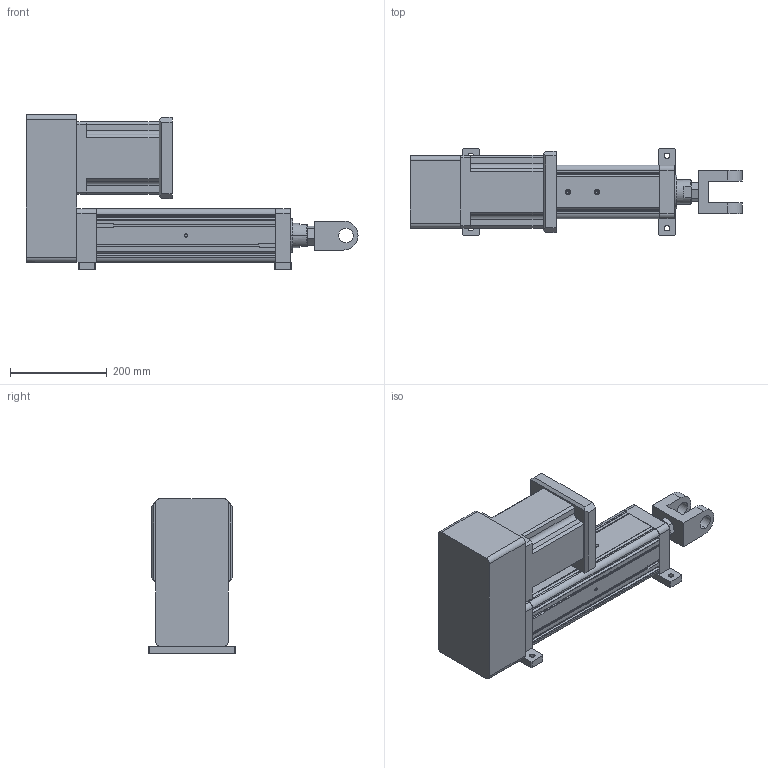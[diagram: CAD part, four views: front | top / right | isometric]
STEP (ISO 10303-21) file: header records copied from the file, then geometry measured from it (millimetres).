
FILE_DESCRIPTION (( 'STEP AP203' ), '1' );
FILE_NAME ('YRJ110-L200-H2K4.STEP', '2020-01-04T06:03:16', ( 'User' ), ( 'China' ), 'SwSTEP 2.0', 'SolidWorks 2016', '' );
FILE_SCHEMA (( 'CONFIG_CONTROL_DESIGN' ));
Length unit declared in the file: millimetre
Products named in the file (7): 095-100俴最倰第; 142熬厒儂; 萇儂碟-110; H2-110-1; K4-110; YRJ110-L200-H2K4; H2-110-2
Assembly tree (6 placements, depth 2):
  YRJ110-L200-H2K4
    095-100俴最倰第
    萇儂碟-110
    142熬厒儂
    K4-110
    H2-110-1
    H2-110-2
Bounding box: 686 x 180 x 320 mm (x, y, z)
Volume: 11772797.9 mm3; surface area: 869082.5 mm2
Topology: 6 solids, 6 shells, 340 faces, 936 edges, 605 vertices
Faces by surface type: plane 197, cylinder 116, cone 27
Entity records: 11776 total; most frequent: CARTESIAN_POINT 2214, DIRECTION 1843, ORIENTED_EDGE 1840, EDGE_CURVE 920, VECTOR 651, LINE 651, VERTEX_POINT 605, AXIS2_PLACEMENT_3D 596
